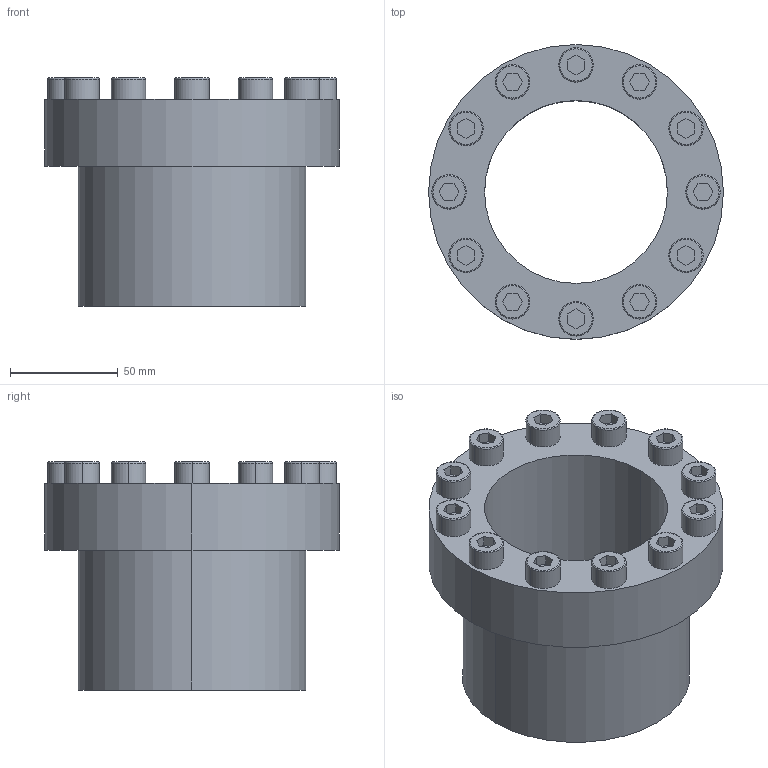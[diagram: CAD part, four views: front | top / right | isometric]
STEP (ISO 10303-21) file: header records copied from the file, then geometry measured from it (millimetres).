
FILE_DESCRIPTION (( 'STEP AP203' ), '1' );
FILE_NAME ('PL-C 85-106.STEP', '2021-10-22T08:46:49', ( '' ), ( '' ), 'SwSTEP 2.0', 'SolidWorks 2018', '' );
FILE_SCHEMA (( 'CONFIG_CONTROL_DESIGN' ));
Length unit declared in the file: millimetre
Products named in the file (1): PL-C 85-106
Bounding box: 137 x 137 x 106 mm (x, y, z)
Volume: 504438.3 mm3; surface area: 86279.6 mm2
Topology: 1 solids, 1 shells, 153 faces, 354 edges, 228 vertices
Faces by surface type: plane 99, cylinder 30, torus 24
Entity records: 4405 total; most frequent: DIRECTION 770, CARTESIAN_POINT 736, ORIENTED_EDGE 708, EDGE_CURVE 354, AXIS2_PLACEMENT_3D 262, LINE 246, VECTOR 246, VERTEX_POINT 228
